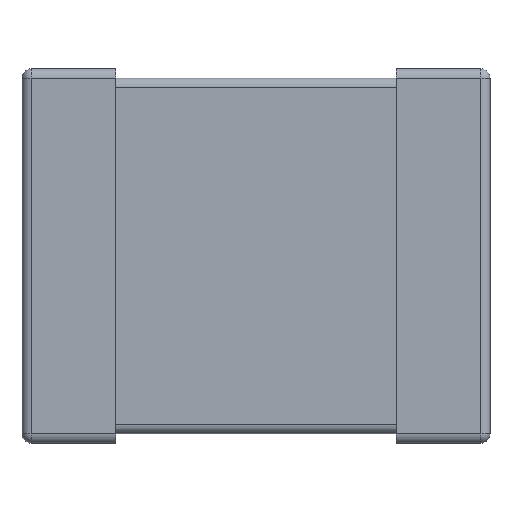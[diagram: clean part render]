
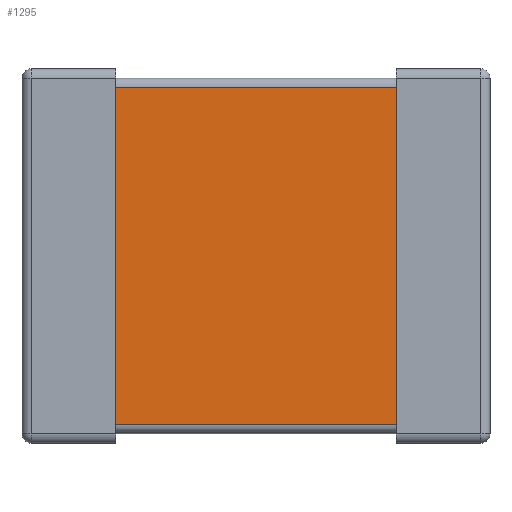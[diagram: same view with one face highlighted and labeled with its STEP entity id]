
A CAD part, front view. The second image highlights one B-rep face of the part: STEP entity #1295.
In plain terms, the highlighted planar face has unit normal (0, -1, 0).
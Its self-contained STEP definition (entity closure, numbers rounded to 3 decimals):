
#1100 = CARTESIAN_POINT ( 'NONE',  ( 0.75, 0.05, 0.9 ) ) ;
#1101 = VERTEX_POINT ( 'NONE', #1100 ) ;
#1109 = CARTESIAN_POINT ( 'NONE',  ( 0.75, 0.05, -0.9 ) ) ;
#1110 = VERTEX_POINT ( 'NONE', #1109 ) ;
#1111 = CARTESIAN_POINT ( 'NONE',  ( 0.75, 0.05, 0.95 ) ) ;
#1112 = DIRECTION ( 'NONE',  ( 0., 0., -1. ) ) ;
#1113 = VECTOR ( 'NONE', #1112, 1000. ) ;
#1114 = LINE ( 'NONE', #1111, #1113 ) ;
#1115 = EDGE_CURVE ( 'NONE', #1101, #1110, #1114, .T. ) ;
#1181 = CARTESIAN_POINT ( 'NONE',  ( -0.75, 0.05, -0.9 ) ) ;
#1182 = VERTEX_POINT ( 'NONE', #1181 ) ;
#1190 = CARTESIAN_POINT ( 'NONE',  ( -0.75, 0.05, 0.9 ) ) ;
#1191 = VERTEX_POINT ( 'NONE', #1190 ) ;
#1192 = CARTESIAN_POINT ( 'NONE',  ( -0.75, 0.05, 0.95 ) ) ;
#1193 = DIRECTION ( 'NONE',  ( 0., 0., 1. ) ) ;
#1194 = VECTOR ( 'NONE', #1193, 1000. ) ;
#1195 = LINE ( 'NONE', #1192, #1194 ) ;
#1196 = EDGE_CURVE ( 'NONE', #1182, #1191, #1195, .T. ) ;
#1274 = ORIENTED_EDGE ( 'NONE', *, *, #1196, .F. ) ;
#1275 = CARTESIAN_POINT ( 'NONE',  ( 0.75, 0.05, -0.9 ) ) ;
#1276 = DIRECTION ( 'NONE',  ( 1., 0., 0. ) ) ;
#1277 = VECTOR ( 'NONE', #1276, 1000. ) ;
#1278 = LINE ( 'NONE', #1275, #1277 ) ;
#1279 = EDGE_CURVE ( 'NONE', #1182, #1110, #1278, .T. ) ;
#1280 = ORIENTED_EDGE ( 'NONE', *, *, #1279, .T. ) ;
#1281 = ORIENTED_EDGE ( 'NONE', *, *, #1115, .F. ) ;
#1282 = CARTESIAN_POINT ( 'NONE',  ( -0.75, 0.05, 0.9 ) ) ;
#1283 = DIRECTION ( 'NONE',  ( -1., 0., 0. ) ) ;
#1284 = VECTOR ( 'NONE', #1283, 1000. ) ;
#1285 = LINE ( 'NONE', #1282, #1284 ) ;
#1286 = EDGE_CURVE ( 'NONE', #1101, #1191, #1285, .T. ) ;
#1287 = ORIENTED_EDGE ( 'NONE', *, *, #1286, .T. ) ;
#1288 = EDGE_LOOP ( 'NONE', ( #1274, #1280, #1281, #1287 ) ) ;
#1289 = FACE_OUTER_BOUND ( 'NONE', #1288, .T. ) ;
#1290 = CARTESIAN_POINT ( 'NONE',  ( 0., 0.05, 0. ) ) ;
#1291 = DIRECTION ( 'NONE',  ( 0., -1., 0. ) ) ;
#1292 = DIRECTION ( 'NONE',  ( 0., 0., -1. ) ) ;
#1293 = AXIS2_PLACEMENT_3D ( 'NONE', #1290, #1291, #1292 ) ;
#1294 = PLANE ( 'NONE', #1293 ) ;
#1295 = ADVANCED_FACE ( 'NONE', ( #1289 ), #1294, .T. ) ;
